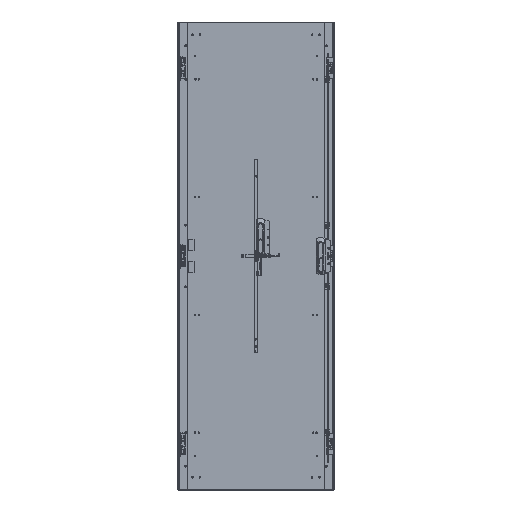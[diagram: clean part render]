
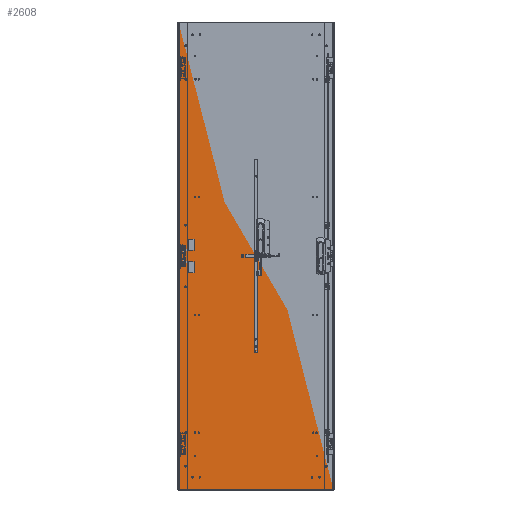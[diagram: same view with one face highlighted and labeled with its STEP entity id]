
A CAD part, front view. The second image highlights one B-rep face of the part: STEP entity #2608.
In plain terms, the highlighted planar face has unit normal (0, -1, 0).
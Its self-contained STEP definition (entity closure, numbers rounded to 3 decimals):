
#2608 = ADVANCED_FACE( '', ( #3803, #3804, #3805, #3806, #3807, #3808 ), #3809, .T. );
#3803 = FACE_BOUND( '', #5765, .T. );
#3804 = FACE_BOUND( '', #5766, .T. );
#3805 = FACE_BOUND( '', #5767, .T. );
#3806 = FACE_OUTER_BOUND( '', #5768, .T. );
#3807 = FACE_BOUND( '', #5769, .T. );
#3808 = FACE_BOUND( '', #5770, .T. );
#3809 = PLANE( '', #5771 );
#5765 = EDGE_LOOP( '', ( #9332, #9333, #9334, #9335 ) );
#5766 = EDGE_LOOP( '', ( #9336 ) );
#5767 = EDGE_LOOP( '', ( #9337, #9338, #9339, #9340 ) );
#5768 = EDGE_LOOP( '', ( #9341, #9342, #9343, #9344 ) );
#5769 = EDGE_LOOP( '', ( #9345, #9346, #9347, #9348 ) );
#5770 = EDGE_LOOP( '', ( #9349 ) );
#5771 = AXIS2_PLACEMENT_3D( '', #9350, #9351, #9352 );
#9332 = ORIENTED_EDGE( '', *, *, #14909, .F. );
#9333 = ORIENTED_EDGE( '', *, *, #14910, .F. );
#9334 = ORIENTED_EDGE( '', *, *, #14911, .F. );
#9335 = ORIENTED_EDGE( '', *, *, #14912, .F. );
#9336 = ORIENTED_EDGE( '', *, *, #14913, .T. );
#9337 = ORIENTED_EDGE( '', *, *, #14914, .F. );
#9338 = ORIENTED_EDGE( '', *, *, #14915, .F. );
#9339 = ORIENTED_EDGE( '', *, *, #14916, .F. );
#9340 = ORIENTED_EDGE( '', *, *, #14917, .F. );
#9341 = ORIENTED_EDGE( '', *, *, #14918, .T. );
#9342 = ORIENTED_EDGE( '', *, *, #14919, .F. );
#9343 = ORIENTED_EDGE( '', *, *, #14920, .F. );
#9344 = ORIENTED_EDGE( '', *, *, #14921, .F. );
#9345 = ORIENTED_EDGE( '', *, *, #14922, .T. );
#9346 = ORIENTED_EDGE( '', *, *, #14923, .T. );
#9347 = ORIENTED_EDGE( '', *, *, #14924, .T. );
#9348 = ORIENTED_EDGE( '', *, *, #14925, .T. );
#9349 = ORIENTED_EDGE( '', *, *, #14926, .T. );
#9350 = CARTESIAN_POINT( '', ( -353.251, 0., -1059.656 ) );
#9351 = DIRECTION( '', ( 0., -1., 0. ) );
#9352 = DIRECTION( '', ( 0., 0., -1. ) );
#14909 = EDGE_CURVE( '', #17111, #17112, #17113, .T. );
#14910 = EDGE_CURVE( '', #17114, #17111, #17115, .T. );
#14911 = EDGE_CURVE( '', #17116, #17114, #17117, .T. );
#14912 = EDGE_CURVE( '', #17112, #17116, #17118, .T. );
#14913 = EDGE_CURVE( '', #17119, #17119, #17120, .T. );
#14914 = EDGE_CURVE( '', #17121, #17122, #17123, .T. );
#14915 = EDGE_CURVE( '', #17124, #17121, #17125, .T. );
#14916 = EDGE_CURVE( '', #17126, #17124, #17127, .T. );
#14917 = EDGE_CURVE( '', #17122, #17126, #17128, .T. );
#14918 = EDGE_CURVE( '', #17129, #17130, #17131, .T. );
#14919 = EDGE_CURVE( '', #17132, #17130, #17133, .T. );
#14920 = EDGE_CURVE( '', #17134, #17132, #17135, .T. );
#14921 = EDGE_CURVE( '', #17129, #17134, #17136, .T. );
#14922 = EDGE_CURVE( '', #17137, #17138, #17139, .T. );
#14923 = EDGE_CURVE( '', #17138, #17140, #17141, .T. );
#14924 = EDGE_CURVE( '', #17140, #17142, #17143, .T. );
#14925 = EDGE_CURVE( '', #17142, #17137, #17144, .T. );
#14926 = EDGE_CURVE( '', #17145, #17145, #17146, .T. );
#17111 = VERTEX_POINT( '', #20741 );
#17112 = VERTEX_POINT( '', #20742 );
#17113 = LINE( '', #20743, #20744 );
#17114 = VERTEX_POINT( '', #20745 );
#17115 = LINE( '', #20746, #20747 );
#17116 = VERTEX_POINT( '', #20748 );
#17117 = LINE( '', #20749, #20750 );
#17118 = LINE( '', #20751, #20752 );
#17119 = VERTEX_POINT( '', #20753 );
#17120 = CIRCLE( '', #20754, 4.013 );
#17121 = VERTEX_POINT( '', #20755 );
#17122 = VERTEX_POINT( '', #20756 );
#17123 = LINE( '', #20757, #20758 );
#17124 = VERTEX_POINT( '', #20759 );
#17125 = LINE( '', #20760, #20761 );
#17126 = VERTEX_POINT( '', #20762 );
#17127 = LINE( '', #20763, #20764 );
#17128 = LINE( '', #20765, #20766 );
#17129 = VERTEX_POINT( '', #20767 );
#17130 = VERTEX_POINT( '', #20768 );
#17131 = LINE( '', #20769, #20770 );
#17132 = VERTEX_POINT( '', #20771 );
#17133 = LINE( '', #20772, #20773 );
#17134 = VERTEX_POINT( '', #20774 );
#17135 = LINE( '', #20775, #20776 );
#17136 = LINE( '', #20777, #20778 );
#17137 = VERTEX_POINT( '', #20779 );
#17138 = VERTEX_POINT( '', #20780 );
#17139 = LINE( '', #20781, #20782 );
#17140 = VERTEX_POINT( '', #20783 );
#17141 = LINE( '', #20784, #20785 );
#17142 = VERTEX_POINT( '', #20786 );
#17143 = LINE( '', #20787, #20788 );
#17144 = LINE( '', #20789, #20790 );
#17145 = VERTEX_POINT( '', #20791 );
#17146 = CIRCLE( '', #20792, 4.013 );
#20741 = CARTESIAN_POINT( '', ( -305.733, 0., 75.006 ) );
#20742 = CARTESIAN_POINT( '', ( -305.733, 0., 24.994 ) );
#20743 = CARTESIAN_POINT( '', ( -305.733, 0., 75.006 ) );
#20744 = VECTOR( '', #25889, 1000. );
#20745 = CARTESIAN_POINT( '', ( -280.739, 0., 75.006 ) );
#20746 = CARTESIAN_POINT( '', ( -280.739, 0., 75.006 ) );
#20747 = VECTOR( '', #25890, 1000. );
#20748 = CARTESIAN_POINT( '', ( -280.739, 0., 24.994 ) );
#20749 = CARTESIAN_POINT( '', ( -280.739, 0., 24.994 ) );
#20750 = VECTOR( '', #25891, 1000. );
#20751 = CARTESIAN_POINT( '', ( -305.733, 0., 24.994 ) );
#20752 = VECTOR( '', #25892, 1000. );
#20753 = CARTESIAN_POINT( '', ( -325.214, 0., 35.001 ) );
#20754 = AXIS2_PLACEMENT_3D( '', #25893, #25894, #25895 );
#20755 = CARTESIAN_POINT( '', ( -329.748, 0., 15.875 ) );
#20756 = CARTESIAN_POINT( '', ( -329.748, 0., -15.875 ) );
#20757 = CARTESIAN_POINT( '', ( -329.748, 0., 15.875 ) );
#20758 = VECTOR( '', #25896, 1000. );
#20759 = CARTESIAN_POINT( '', ( -324.744, 0., 15.875 ) );
#20760 = CARTESIAN_POINT( '', ( -324.744, 0., 15.875 ) );
#20761 = VECTOR( '', #25897, 1000. );
#20762 = CARTESIAN_POINT( '', ( -324.744, 0., -15.875 ) );
#20763 = CARTESIAN_POINT( '', ( -324.744, 0., -15.875 ) );
#20764 = VECTOR( '', #25898, 1000. );
#20765 = CARTESIAN_POINT( '', ( -329.748, 0., -15.875 ) );
#20766 = VECTOR( '', #25899, 1000. );
#20767 = CARTESIAN_POINT( '', ( 350.507, 0., 1056.913 ) );
#20768 = CARTESIAN_POINT( '', ( -350.507, 0., 1056.913 ) );
#20769 = CARTESIAN_POINT( '', ( 350.507, 0., 1056.913 ) );
#20770 = VECTOR( '', #25900, 1000. );
#20771 = CARTESIAN_POINT( '', ( -350.507, 0., -1056.913 ) );
#20772 = CARTESIAN_POINT( '', ( -350.507, 0., -1056.913 ) );
#20773 = VECTOR( '', #25901, 1000. );
#20774 = CARTESIAN_POINT( '', ( 350.507, 0., -1056.913 ) );
#20775 = CARTESIAN_POINT( '', ( 350.507, 0., -1056.913 ) );
#20776 = VECTOR( '', #25902, 1000. );
#20777 = CARTESIAN_POINT( '', ( 350.507, 0., 1056.913 ) );
#20778 = VECTOR( '', #25903, 1000. );
#20779 = CARTESIAN_POINT( '', ( -305.733, 0., -25.019 ) );
#20780 = CARTESIAN_POINT( '', ( -280.739, 0., -25.019 ) );
#20781 = CARTESIAN_POINT( '', ( -305.733, 0., -25.019 ) );
#20782 = VECTOR( '', #25904, 1000. );
#20783 = CARTESIAN_POINT( '', ( -280.739, 0., -75.032 ) );
#20784 = CARTESIAN_POINT( '', ( -280.739, 0., -25.019 ) );
#20785 = VECTOR( '', #25905, 1000. );
#20786 = CARTESIAN_POINT( '', ( -305.733, 0., -75.032 ) );
#20787 = CARTESIAN_POINT( '', ( -280.739, 0., -75.032 ) );
#20788 = VECTOR( '', #25906, 1000. );
#20789 = CARTESIAN_POINT( '', ( -305.733, 0., -75.032 ) );
#20790 = VECTOR( '', #25907, 1000. );
#20791 = CARTESIAN_POINT( '', ( -325.214, 0., -35.001 ) );
#20792 = AXIS2_PLACEMENT_3D( '', #25908, #25909, #25910 );
#25889 = DIRECTION( '', ( 0., 0., -1. ) );
#25890 = DIRECTION( '', ( -1., 0., 0. ) );
#25891 = DIRECTION( '', ( 0., 0., 1. ) );
#25892 = DIRECTION( '', ( 1., 0., 0. ) );
#25893 = CARTESIAN_POINT( '', ( -329.228, 0., 35.001 ) );
#25894 = DIRECTION( '', ( 0., 1., 0. ) );
#25895 = DIRECTION( '', ( 1., 0., 0. ) );
#25896 = DIRECTION( '', ( 0., 0., -1. ) );
#25897 = DIRECTION( '', ( -1., 0., 0. ) );
#25898 = DIRECTION( '', ( 0., 0., 1. ) );
#25899 = DIRECTION( '', ( 1., 0., 0. ) );
#25900 = DIRECTION( '', ( -1., 0., 0. ) );
#25901 = DIRECTION( '', ( 0., 0., 1. ) );
#25902 = DIRECTION( '', ( -1., 0., 0. ) );
#25903 = DIRECTION( '', ( 0., 0., -1. ) );
#25904 = DIRECTION( '', ( 1., 0., 0. ) );
#25905 = DIRECTION( '', ( 0., 0., -1. ) );
#25906 = DIRECTION( '', ( -1., 0., 0. ) );
#25907 = DIRECTION( '', ( 0., 0., 1. ) );
#25908 = CARTESIAN_POINT( '', ( -329.228, 0., -35.001 ) );
#25909 = DIRECTION( '', ( 0., 1., 0. ) );
#25910 = DIRECTION( '', ( 1., 0., 0. ) );
